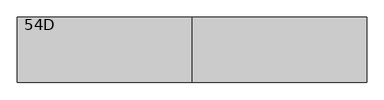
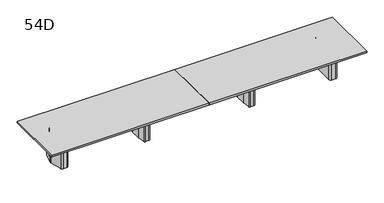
"""IFC4 building model written with IfcOpenShell, lengths in millimetres: furniture geometry, Coalesse_AM_Table_Conference_ETable2_Rectangular_24ft_FourBase : 54D."""

from ifc_helpers import new_model, si_unit, frame, origin, place, context, project, spatial, polyline, circle_curve, outline, extrude, source, transform, mapped, element, save
from ifc_brep_helpers import plane_surface, cylinder_surface, revolved_surface, advanced_brep


def furniture_54d_2627609f(model_context):
    return source(origin(), model_context, "Body", "SolidModel", [
        advanced_brep(
        [(1254.91875, 206.375, 3.175), (1229.51875, 231.775, 3.175), (1208.88125, 231.775, 3.175), (1183.48125, 206.375, 3.175), (1183.48125, -206.375, 3.175), (1208.88125, -231.775, 3.175), (1229.51875, -231.775, 3.175), (1254.91875, -206.375, 3.175), (1158.08125, 206.375, 0.0), (1208.88125, 257.175, 0.0), (1229.51875, 257.175, 0.0), (1280.31875, 206.375, 0.0), (1280.31875, -206.375, 0.0), (1229.51875, -257.175, 0.0), (1208.88125, -257.175, 0.0), (1158.08125, -206.375, 0.0), (1158.08125, -206.375, 3.175), (1158.08125, 206.375, 3.175), (1208.88125, -257.175, 3.175), (1229.51875, -257.175, 3.175), (1280.31875, -206.375, 3.175), (1280.31875, 206.375, 3.175), (1229.51875, 257.175, 3.175), (1208.88125, 257.175, 3.175), (1126.5784026, 106.2976848, 698.5), (1126.33125, 102.7629613, 698.5), (1126.33125, -102.7629613, 698.5), (1126.5784026, -106.2976848, 698.5), (1151.4011625, -282.9347235, 698.5), (1176.5540098, -304.8, 698.5), (1261.8459902, -304.8, 698.5), (1286.9988375, -282.9347235, 698.5), (1311.8215974, -106.2976848, 698.5), (1312.06875, -102.7629613, 698.5), (1312.06875, 102.7629613, 698.5), (1311.8215974, 106.2976848, 698.5), (1286.9988375, 282.9347235, 698.5), (1261.8459902, 304.8, 698.5), (1176.5540098, 304.8, 698.5), (1151.4011625, 282.9347235, 698.5), (1229.51875, 231.775, 698.5), (1254.91875, 206.375, 698.5), (1254.91875, -206.375, 698.5), (1229.51875, -231.775, 698.5), (1208.88125, -231.775, 698.5), (1183.48125, -206.375, 698.5), (1183.48125, 206.375, 698.5), (1208.88125, 231.775, 698.5), (1126.5784026, 106.2976848, 3.175), (1151.4011625, 282.9347235, 3.175), (1176.5540098, 304.8, 3.175), (1261.8459902, 304.8, 3.175), (1286.9988375, 282.9347235, 3.175), (1311.8215974, 106.2976848, 3.175), (1312.06875, 102.7629613, 3.175), (1312.06875, -102.7629613, 3.175), (1311.8215974, -106.2976848, 3.175), (1286.9988375, -282.9347235, 3.175), (1261.8459902, -304.8, 3.175), (1176.5540098, -304.8, 3.175), (1151.4011625, -282.9347235, 3.175), (1126.5784026, -106.2976848, 3.175), (1126.33125, -102.7629613, 3.175), (1126.33125, 102.7629613, 3.175)],
        [
            (0, 1, circle_curve(frame((1229.51875, 206.375, 3.175), z_axis=(0.0, 0.0, 1.0), x_axis=(1.0, 0.0, 0.0)), 25.4)),
            (1, 2),
            (2, 3, circle_curve(frame((1208.88125, 206.375, 3.175), z_axis=(0.0, 0.0, 1.0), x_axis=(1.0, 0.0, 0.0)), 25.4)),
            (3, 4),
            (4, 5, circle_curve(frame((1208.88125, -206.375, 3.175), z_axis=(0.0, 0.0, 1.0), x_axis=(1.0, 0.0, 0.0)), 25.4)),
            (5, 6),
            (6, 7, circle_curve(frame((1229.51875, -206.375, 3.175), z_axis=(0.0, 0.0, 1.0), x_axis=(1.0, 0.0, 0.0)), 25.4)),
            (7, 0),
            (8, 9, circle_curve(frame((1208.88125, 206.375, 0.0), z_axis=(0.0, 0.0, -1.0), x_axis=(1.0, 0.0, 0.0)), 50.8)),
            (9, 10),
            (10, 11, circle_curve(frame((1229.51875, 206.375, 0.0), z_axis=(0.0, 0.0, -1.0), x_axis=(1.0, 0.0, 0.0)), 50.8)),
            (11, 12),
            (12, 13, circle_curve(frame((1229.51875, -206.375, 0.0), z_axis=(0.0, 0.0, -1.0), x_axis=(1.0, 0.0, 0.0)), 50.8)),
            (13, 14),
            (14, 15, circle_curve(frame((1208.88125, -206.375, 0.0), z_axis=(0.0, 0.0, -1.0), x_axis=(1.0, 0.0, 0.0)), 50.8)),
            (15, 8),
            (15, 16),
            (16, 17),
            (17, 8),
            (14, 18),
            (18, 16, circle_curve(frame((1208.88125, -206.375, 3.175), z_axis=(0.0, 0.0, -1.0), x_axis=(1.0, 0.0, 0.0)), 50.8)),
            (13, 19),
            (19, 18),
            (12, 20),
            (20, 19, circle_curve(frame((1229.51875, -206.375, 3.175), z_axis=(0.0, 0.0, -1.0), x_axis=(1.0, 0.0, 0.0)), 50.8)),
            (11, 21),
            (21, 20),
            (10, 22),
            (22, 21, circle_curve(frame((1229.51875, 206.375, 3.175), z_axis=(0.0, 0.0, -1.0), x_axis=(1.0, 0.0, 0.0)), 50.8)),
            (9, 23),
            (23, 22),
            (17, 23, circle_curve(frame((1208.88125, 206.375, 3.175), z_axis=(0.0, 0.0, -1.0), x_axis=(1.0, 0.0, 0.0)), 50.8)),
            (24, 25, circle_curve(frame((1151.73125, 102.7629613, 698.5), z_axis=(0.0, 0.0, 1.0), x_axis=(1.0, 0.0, 0.0)), 25.4)),
            (25, 26),
            (26, 27, circle_curve(frame((1151.73125, -102.7629613, 698.5), z_axis=(0.0, 0.0, 1.0), x_axis=(1.0, 0.0, 0.0)), 25.4)),
            (27, 28),
            (28, 29, circle_curve(frame((1176.5540098, -279.4, 698.5), z_axis=(0.0, 0.0, 1.0), x_axis=(1.0, 0.0, 0.0)), 25.4)),
            (29, 30),
            (30, 31, circle_curve(frame((1261.8459902, -279.4, 698.5), z_axis=(0.0, 0.0, 1.0), x_axis=(1.0, 0.0, 0.0)), 25.4)),
            (31, 32),
            (32, 33, circle_curve(frame((1286.66875, -102.7629613, 698.5), z_axis=(0.0, 0.0, 1.0), x_axis=(1.0, 0.0, 0.0)), 25.4)),
            (33, 34),
            (34, 35, circle_curve(frame((1286.66875, 102.7629613, 698.5), z_axis=(0.0, 0.0, 1.0), x_axis=(1.0, 0.0, 0.0)), 25.4)),
            (35, 36),
            (36, 37, circle_curve(frame((1261.8459902, 279.4, 698.5), z_axis=(0.0, 0.0, 1.0), x_axis=(1.0, 0.0, 0.0)), 25.4)),
            (37, 38),
            (38, 39, circle_curve(frame((1176.5540098, 279.4, 698.5), z_axis=(0.0, 0.0, 1.0), x_axis=(1.0, 0.0, 0.0)), 25.4)),
            (39, 24),
            (40, 41, circle_curve(frame((1229.51875, 206.375, 698.5), z_axis=(0.0, 0.0, -1.0), x_axis=(1.0, 0.0, 0.0)), 25.4)),
            (41, 42),
            (42, 43, circle_curve(frame((1229.51875, -206.375, 698.5), z_axis=(0.0, 0.0, -1.0), x_axis=(1.0, 0.0, 0.0)), 25.4)),
            (43, 44),
            (44, 45, circle_curve(frame((1208.88125, -206.375, 698.5), z_axis=(0.0, 0.0, -1.0), x_axis=(1.0, 0.0, 0.0)), 25.4)),
            (45, 46),
            (46, 47, circle_curve(frame((1208.88125, 206.375, 698.5), z_axis=(0.0, 0.0, -1.0), x_axis=(1.0, 0.0, 0.0)), 25.4)),
            (47, 40),
            (48, 49),
            (49, 50, circle_curve(frame((1176.5540098, 279.4, 3.175), z_axis=(0.0, 0.0, -1.0), x_axis=(1.0, 0.0, 0.0)), 25.4)),
            (50, 51),
            (51, 52, circle_curve(frame((1261.8459902, 279.4, 3.175), z_axis=(0.0, 0.0, -1.0), x_axis=(1.0, 0.0, 0.0)), 25.4)),
            (52, 53),
            (53, 54, circle_curve(frame((1286.66875, 102.7629613, 3.175), z_axis=(0.0, 0.0, -1.0), x_axis=(1.0, 0.0, 0.0)), 25.4)),
            (54, 55),
            (55, 56, circle_curve(frame((1286.66875, -102.7629613, 3.175), z_axis=(0.0, 0.0, -1.0), x_axis=(1.0, 0.0, 0.0)), 25.4)),
            (56, 57),
            (57, 58, circle_curve(frame((1261.8459902, -279.4, 3.175), z_axis=(0.0, 0.0, -1.0), x_axis=(1.0, 0.0, 0.0)), 25.4)),
            (58, 59),
            (59, 60, circle_curve(frame((1176.5540098, -279.4, 3.175), z_axis=(0.0, 0.0, -1.0), x_axis=(1.0, 0.0, 0.0)), 25.4)),
            (60, 61),
            (61, 62, circle_curve(frame((1151.73125, -102.7629613, 3.175), z_axis=(0.0, 0.0, -1.0), x_axis=(1.0, 0.0, 0.0)), 25.4)),
            (62, 63),
            (63, 48, circle_curve(frame((1151.73125, 102.7629613, 3.175), z_axis=(0.0, 0.0, -1.0), x_axis=(1.0, 0.0, 0.0)), 25.4)),
            (24, 48),
            (63, 25),
            (62, 26),
            (61, 27),
            (60, 28),
            (59, 29),
            (58, 30),
            (57, 31),
            (56, 32),
            (55, 33),
            (54, 34),
            (53, 35),
            (52, 36),
            (51, 37),
            (50, 38),
            (49, 39),
            (40, 1),
            (0, 41),
            (7, 42),
            (6, 43),
            (5, 44),
            (4, 45),
            (3, 46),
            (2, 47),
        ],
        [
            plane_surface(frame((1158.08125, -206.375, 3.175), z_axis=(0.0, 0.0, 1.0), x_axis=(0.0, -1.0, 0.0))),
            plane_surface(frame((1158.08125, -206.375, 0.0), z_axis=(0.0, 0.0, -1.0), x_axis=(0.0, 1.0, 0.0))),
            plane_surface(frame((1158.08125, 206.375, 3.175), z_axis=(-1.0, 0.0, 0.0), x_axis=(0.0, 0.0, -1.0))),
            cylinder_surface(frame((1208.88125, -206.375, 0.0), z_axis=(0.0, 0.0, 1.0), x_axis=(1.0, 0.0, 0.0)), 50.8),
            plane_surface(frame((1208.88125, -257.175, 3.175), z_axis=(0.0, -1.0, 0.0), x_axis=(0.0, 0.0, -1.0))),
            cylinder_surface(frame((1229.51875, -206.375, 0.0), z_axis=(0.0, 0.0, 1.0), x_axis=(1.0, 0.0, 0.0)), 50.8),
            plane_surface(frame((1280.31875, -206.375, 3.175), z_axis=(1.0, 0.0, 0.0), x_axis=(0.0, 0.0, -1.0))),
            cylinder_surface(frame((1229.51875, 206.375, 0.0), z_axis=(0.0, 0.0, 1.0), x_axis=(1.0, 0.0, 0.0)), 50.8),
            plane_surface(frame((1229.51875, 257.175, 3.175), z_axis=(0.0, 1.0, 0.0), x_axis=(0.0, 0.0, -1.0))),
            cylinder_surface(frame((1208.88125, 206.375, 0.0), z_axis=(0.0, 0.0, 1.0), x_axis=(1.0, 0.0, 0.0)), 50.8),
            plane_surface(frame((1177.13125, 102.7629613, 698.5), z_axis=(0.0, 0.0, 1.0), x_axis=(0.0, 1.0, 0.0))),
            plane_surface(frame((1177.13125, 102.7629613, 3.175), z_axis=(0.0, 0.0, -1.0), x_axis=(0.0, -1.0, 0.0))),
            cylinder_surface(frame((1151.73125, 102.7629613, 3.175), z_axis=(0.0, 0.0, 1.0), x_axis=(1.0, 0.0, 0.0)), 25.4),
            plane_surface(frame((1126.33125, 102.7629613, 698.5), z_axis=(-1.0, 0.0, 0.0), x_axis=(0.0, 0.0, -1.0))),
            cylinder_surface(frame((1151.73125, -102.7629613, 3.175), z_axis=(0.0, 0.0, 1.0), x_axis=(1.0, 0.0, 0.0)), 25.4),
            plane_surface(frame((1126.5784026, -106.2976848, 698.5), z_axis=(-0.9902695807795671, -0.13916234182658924, 0.0), x_axis=(0.0, 0.0, -1.0))),
            cylinder_surface(frame((1176.5540098, -279.4, 3.175), z_axis=(0.0, 0.0, 1.0), x_axis=(1.0, 0.0, 0.0)), 25.4),
            plane_surface(frame((1176.5540098, -304.8, 698.5), z_axis=(0.0, -1.0, 0.0), x_axis=(0.0, 0.0, -1.0))),
            cylinder_surface(frame((1261.8459902, -279.4, 3.175), z_axis=(0.0, 0.0, 1.0), x_axis=(1.0, 0.0, 0.0)), 25.4),
            plane_surface(frame((1286.9988375, -282.9347235, 698.5), z_axis=(0.9902695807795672, -0.13916234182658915, 0.0), x_axis=(0.0, 0.0, -1.0))),
            cylinder_surface(frame((1286.66875, -102.7629613, 3.175), z_axis=(0.0, 0.0, 1.0), x_axis=(1.0, 0.0, 0.0)), 25.4),
            plane_surface(frame((1312.06875, -102.7629613, 698.5), z_axis=(1.0, 0.0, 0.0), x_axis=(0.0, 0.0, -1.0))),
            cylinder_surface(frame((1286.66875, 102.7629613, 3.175), z_axis=(0.0, 0.0, 1.0), x_axis=(1.0, 0.0, 0.0)), 25.4),
            plane_surface(frame((1311.8215974, 106.2976848, 698.5), z_axis=(0.9902695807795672, 0.1391623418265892, 0.0), x_axis=(0.0, 0.0, -1.0))),
            cylinder_surface(frame((1261.8459902, 279.4, 3.175), z_axis=(0.0, 0.0, 1.0), x_axis=(1.0, 0.0, 0.0)), 25.4),
            plane_surface(frame((1261.8459902, 304.8, 698.5), z_axis=(0.0, 1.0, 0.0), x_axis=(0.0, 0.0, -1.0))),
            cylinder_surface(frame((1176.5540098, 279.4, 3.175), z_axis=(0.0, 0.0, 1.0), x_axis=(1.0, 0.0, 0.0)), 25.4),
            plane_surface(frame((1151.4011625, 282.9347235, 698.5), z_axis=(-0.9902695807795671, 0.13916234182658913, 0.0), x_axis=(0.0, 0.0, -1.0))),
            revolved_surface(polyline([(1254.91875, 206.375, 3.175), (1254.91875, 206.375, 698.5)]), (1229.51875, 206.375, 0.0), (0.0, 0.0, -1.0)),
            plane_surface(frame((1254.91875, 206.375, 698.5), z_axis=(-1.0, 0.0, 0.0), x_axis=(0.0, 0.0, -1.0))),
            revolved_surface(polyline([(1254.91875, -206.375, 3.175), (1254.91875, -206.375, 698.5)]), (1229.51875, -206.375, 0.0), (0.0, 0.0, -1.0)),
            plane_surface(frame((1229.51875, -231.775, 698.5), z_axis=(0.0, 1.0, 0.0), x_axis=(0.0, 0.0, -1.0))),
            revolved_surface(polyline([(1234.28125, -206.375, 3.175), (1234.28125, -206.375, 698.5)]), (1208.88125, -206.375, 0.0), (0.0, 0.0, -1.0)),
            plane_surface(frame((1183.48125, -206.375, 698.5), z_axis=(1.0, 0.0, 0.0), x_axis=(0.0, 0.0, -1.0))),
            revolved_surface(polyline([(1234.28125, 206.375, 3.175), (1234.28125, 206.375, 698.5)]), (1208.88125, 206.375, 0.0), (0.0, 0.0, -1.0)),
            plane_surface(frame((1208.88125, 231.775, 698.5), z_axis=(0.0, -1.0, 0.0), x_axis=(0.0, 0.0, -1.0))),
        ],
        [
            (0, [[1, 2, 3, 4, 5, 6, 7, 8]]),
            (1, [[9, 10, 11, 12, 13, 14, 15, 16]]),
            (2, [[-16, 17, 18, 19]]),
            (3, [[-15, 20, 21, -17]]),
            (4, [[-14, 22, 23, -20]]),
            (5, [[-13, 24, 25, -22]]),
            (6, [[-12, 26, 27, -24]]),
            (7, [[-11, 28, 29, -26]]),
            (8, [[-10, 30, 31, -28]]),
            (9, [[-9, -19, 32, -30]]),
            (10, [[33, 34, 35, 36, 37, 38, 39, 40, 41, 42, 43, 44, 45, 46, 47, 48], [49, 50, 51, 52, 53, 54, 55, 56]]),
            (11, [[57, 58, 59, 60, 61, 62, 63, 64, 65, 66, 67, 68, 69, 70, 71, 72], [-18, -21, -23, -25, -27, -29, -31, -32]]),
            (12, [[-33, 73, -72, 74]]),
            (13, [[-34, -74, -71, 75]]),
            (14, [[-35, -75, -70, 76]]),
            (15, [[-36, -76, -69, 77]]),
            (16, [[-37, -77, -68, 78]]),
            (17, [[-38, -78, -67, 79]]),
            (18, [[-39, -79, -66, 80]]),
            (19, [[-40, -80, -65, 81]]),
            (20, [[-41, -81, -64, 82]]),
            (21, [[-42, -82, -63, 83]]),
            (22, [[-43, -83, -62, 84]]),
            (23, [[-44, -84, -61, 85]]),
            (24, [[-45, -85, -60, 86]]),
            (25, [[-46, -86, -59, 87]]),
            (26, [[-47, -87, -58, 88]]),
            (27, [[-48, -88, -57, -73]]),
            (28, [[-49, 89, -1, 90]]),
            (29, [[-50, -90, -8, 91]]),
            (30, [[-51, -91, -7, 92]]),
            (31, [[-52, -92, -6, 93]]),
            (32, [[-53, -93, -5, 94]]),
            (33, [[-54, -94, -4, 95]]),
            (34, [[-55, -95, -3, 96]]),
            (35, [[-56, -96, -2, -89]]),
        ],
    ),
        advanced_brep(
        [(-1183.48125, 206.375, 3.175), (-1208.88125, 231.775, 3.175), (-1229.51875, 231.775, 3.175), (-1254.91875, 206.375, 3.175), (-1254.91875, -206.375, 3.175), (-1229.51875, -231.775, 3.175), (-1208.88125, -231.775, 3.175), (-1183.48125, -206.375, 3.175), (-1280.31875, 206.375, 0.0), (-1229.51875, 257.175, 0.0), (-1208.88125, 257.175, 0.0), (-1158.08125, 206.375, 0.0), (-1158.08125, -206.375, 0.0), (-1208.88125, -257.175, 0.0), (-1229.51875, -257.175, 0.0), (-1280.31875, -206.375, 0.0), (-1280.31875, -206.375, 3.175), (-1280.31875, 206.375, 3.175), (-1229.51875, -257.175, 3.175), (-1208.88125, -257.175, 3.175), (-1158.08125, -206.375, 3.175), (-1158.08125, 206.375, 3.175), (-1208.88125, 257.175, 3.175), (-1229.51875, 257.175, 3.175), (-1311.8215974, 106.2976848, 698.5), (-1312.06875, 102.7629613, 698.5), (-1312.06875, -102.7629613, 698.5), (-1311.8215974, -106.2976848, 698.5), (-1286.9988375, -282.9347235, 698.5), (-1261.8459902, -304.8, 698.5), (-1176.5540098, -304.8, 698.5), (-1151.4011625, -282.9347235, 698.5), (-1126.5784026, -106.2976848, 698.5), (-1126.33125, -102.7629613, 698.5), (-1126.33125, 102.7629613, 698.5), (-1126.5784026, 106.2976848, 698.5), (-1151.4011625, 282.9347235, 698.5), (-1176.5540098, 304.8, 698.5), (-1261.8459902, 304.8, 698.5), (-1286.9988375, 282.9347235, 698.5), (-1208.88125, 231.775, 698.5), (-1183.48125, 206.375, 698.5), (-1183.48125, -206.375, 698.5), (-1208.88125, -231.775, 698.5), (-1229.51875, -231.775, 698.5), (-1254.91875, -206.375, 698.5), (-1254.91875, 206.375, 698.5), (-1229.51875, 231.775, 698.5), (-1311.8215974, 106.2976848, 3.175), (-1286.9988375, 282.9347235, 3.175), (-1261.8459902, 304.8, 3.175), (-1176.5540098, 304.8, 3.175), (-1151.4011625, 282.9347235, 3.175), (-1126.5784026, 106.2976848, 3.175), (-1126.33125, 102.7629613, 3.175), (-1126.33125, -102.7629613, 3.175), (-1126.5784026, -106.2976848, 3.175), (-1151.4011625, -282.9347235, 3.175), (-1176.5540098, -304.8, 3.175), (-1261.8459902, -304.8, 3.175), (-1286.9988375, -282.9347235, 3.175), (-1311.8215974, -106.2976848, 3.175), (-1312.06875, -102.7629613, 3.175), (-1312.06875, 102.7629613, 3.175)],
        [
            (0, 1, circle_curve(frame((-1208.88125, 206.375, 3.175), z_axis=(0.0, 0.0, 1.0), x_axis=(1.0, 0.0, 0.0)), 25.4)),
            (1, 2),
            (2, 3, circle_curve(frame((-1229.51875, 206.375, 3.175), z_axis=(0.0, 0.0, 1.0), x_axis=(1.0, 0.0, 0.0)), 25.4)),
            (3, 4),
            (4, 5, circle_curve(frame((-1229.51875, -206.375, 3.175), z_axis=(0.0, 0.0, 1.0), x_axis=(1.0, 0.0, 0.0)), 25.4)),
            (5, 6),
            (6, 7, circle_curve(frame((-1208.88125, -206.375, 3.175), z_axis=(0.0, 0.0, 1.0), x_axis=(1.0, 0.0, 0.0)), 25.4)),
            (7, 0),
            (8, 9, circle_curve(frame((-1229.51875, 206.375, 0.0), z_axis=(0.0, 0.0, -1.0), x_axis=(1.0, 0.0, 0.0)), 50.8)),
            (9, 10),
            (10, 11, circle_curve(frame((-1208.88125, 206.375, 0.0), z_axis=(0.0, 0.0, -1.0), x_axis=(1.0, 0.0, 0.0)), 50.8)),
            (11, 12),
            (12, 13, circle_curve(frame((-1208.88125, -206.375, 0.0), z_axis=(0.0, 0.0, -1.0), x_axis=(1.0, 0.0, 0.0)), 50.8)),
            (13, 14),
            (14, 15, circle_curve(frame((-1229.51875, -206.375, 0.0), z_axis=(0.0, 0.0, -1.0), x_axis=(1.0, 0.0, 0.0)), 50.8)),
            (15, 8),
            (15, 16),
            (16, 17),
            (17, 8),
            (14, 18),
            (18, 16, circle_curve(frame((-1229.51875, -206.375, 3.175), z_axis=(0.0, 0.0, -1.0), x_axis=(1.0, 0.0, 0.0)), 50.8)),
            (13, 19),
            (19, 18),
            (12, 20),
            (20, 19, circle_curve(frame((-1208.88125, -206.375, 3.175), z_axis=(0.0, 0.0, -1.0), x_axis=(1.0, 0.0, 0.0)), 50.8)),
            (11, 21),
            (21, 20),
            (10, 22),
            (22, 21, circle_curve(frame((-1208.88125, 206.375, 3.175), z_axis=(0.0, 0.0, -1.0), x_axis=(1.0, 0.0, 0.0)), 50.8)),
            (9, 23),
            (23, 22),
            (17, 23, circle_curve(frame((-1229.51875, 206.375, 3.175), z_axis=(0.0, 0.0, -1.0), x_axis=(1.0, 0.0, 0.0)), 50.8)),
            (24, 25, circle_curve(frame((-1286.66875, 102.7629613, 698.5), z_axis=(0.0, 0.0, 1.0), x_axis=(1.0, 0.0, 0.0)), 25.4)),
            (25, 26),
            (26, 27, circle_curve(frame((-1286.66875, -102.7629613, 698.5), z_axis=(0.0, 0.0, 1.0), x_axis=(1.0, 0.0, 0.0)), 25.4)),
            (27, 28),
            (28, 29, circle_curve(frame((-1261.8459902, -279.4, 698.5), z_axis=(0.0, 0.0, 1.0), x_axis=(1.0, 0.0, 0.0)), 25.4)),
            (29, 30),
            (30, 31, circle_curve(frame((-1176.5540098, -279.4, 698.5), z_axis=(0.0, 0.0, 1.0), x_axis=(1.0, 0.0, 0.0)), 25.4)),
            (31, 32),
            (32, 33, circle_curve(frame((-1151.73125, -102.7629613, 698.5), z_axis=(0.0, 0.0, 1.0), x_axis=(1.0, 0.0, 0.0)), 25.4)),
            (33, 34),
            (34, 35, circle_curve(frame((-1151.73125, 102.7629613, 698.5), z_axis=(0.0, 0.0, 1.0), x_axis=(1.0, 0.0, 0.0)), 25.4)),
            (35, 36),
            (36, 37, circle_curve(frame((-1176.5540098, 279.4, 698.5), z_axis=(0.0, 0.0, 1.0), x_axis=(1.0, 0.0, 0.0)), 25.4)),
            (37, 38),
            (38, 39, circle_curve(frame((-1261.8459902, 279.4, 698.5), z_axis=(0.0, 0.0, 1.0), x_axis=(1.0, 0.0, 0.0)), 25.4)),
            (39, 24),
            (40, 41, circle_curve(frame((-1208.88125, 206.375, 698.5), z_axis=(0.0, 0.0, -1.0), x_axis=(1.0, 0.0, 0.0)), 25.4)),
            (41, 42),
            (42, 43, circle_curve(frame((-1208.88125, -206.375, 698.5), z_axis=(0.0, 0.0, -1.0), x_axis=(1.0, 0.0, 0.0)), 25.4)),
            (43, 44),
            (44, 45, circle_curve(frame((-1229.51875, -206.375, 698.5), z_axis=(0.0, 0.0, -1.0), x_axis=(1.0, 0.0, 0.0)), 25.4)),
            (45, 46),
            (46, 47, circle_curve(frame((-1229.51875, 206.375, 698.5), z_axis=(0.0, 0.0, -1.0), x_axis=(1.0, 0.0, 0.0)), 25.4)),
            (47, 40),
            (48, 49),
            (49, 50, circle_curve(frame((-1261.8459902, 279.4, 3.175), z_axis=(0.0, 0.0, -1.0), x_axis=(1.0, 0.0, 0.0)), 25.4)),
            (50, 51),
            (51, 52, circle_curve(frame((-1176.5540098, 279.4, 3.175), z_axis=(0.0, 0.0, -1.0), x_axis=(1.0, 0.0, 0.0)), 25.4)),
            (52, 53),
            (53, 54, circle_curve(frame((-1151.73125, 102.7629613, 3.175), z_axis=(0.0, 0.0, -1.0), x_axis=(1.0, 0.0, 0.0)), 25.4)),
            (54, 55),
            (55, 56, circle_curve(frame((-1151.73125, -102.7629613, 3.175), z_axis=(0.0, 0.0, -1.0), x_axis=(1.0, 0.0, 0.0)), 25.4)),
            (56, 57),
            (57, 58, circle_curve(frame((-1176.5540098, -279.4, 3.175), z_axis=(0.0, 0.0, -1.0), x_axis=(1.0, 0.0, 0.0)), 25.4)),
            (58, 59),
            (59, 60, circle_curve(frame((-1261.8459902, -279.4, 3.175), z_axis=(0.0, 0.0, -1.0), x_axis=(1.0, 0.0, 0.0)), 25.4)),
            (60, 61),
            (61, 62, circle_curve(frame((-1286.66875, -102.7629613, 3.175), z_axis=(0.0, 0.0, -1.0), x_axis=(1.0, 0.0, 0.0)), 25.4)),
            (62, 63),
            (63, 48, circle_curve(frame((-1286.66875, 102.7629613, 3.175), z_axis=(0.0, 0.0, -1.0), x_axis=(1.0, 0.0, 0.0)), 25.4)),
            (24, 48),
            (63, 25),
            (62, 26),
            (61, 27),
            (60, 28),
            (59, 29),
            (58, 30),
            (57, 31),
            (56, 32),
            (55, 33),
            (54, 34),
            (53, 35),
            (52, 36),
            (51, 37),
            (50, 38),
            (49, 39),
            (40, 1),
            (0, 41),
            (7, 42),
            (6, 43),
            (5, 44),
            (4, 45),
            (3, 46),
            (2, 47),
        ],
        [
            plane_surface(frame((-1280.31875, -206.375, 3.175), z_axis=(0.0, 0.0, 1.0), x_axis=(0.0, -1.0, 0.0))),
            plane_surface(frame((-1280.31875, -206.375, 0.0), z_axis=(0.0, 0.0, -1.0), x_axis=(0.0, 1.0, 0.0))),
            plane_surface(frame((-1280.31875, 206.375, 3.175), z_axis=(-1.0, 0.0, 0.0), x_axis=(0.0, 0.0, -1.0))),
            cylinder_surface(frame((-1229.51875, -206.375, 0.0), z_axis=(0.0, 0.0, 1.0), x_axis=(1.0, 0.0, 0.0)), 50.8),
            plane_surface(frame((-1229.51875, -257.175, 3.175), z_axis=(0.0, -1.0, 0.0), x_axis=(0.0, 0.0, -1.0))),
            cylinder_surface(frame((-1208.88125, -206.375, 0.0), z_axis=(0.0, 0.0, 1.0), x_axis=(1.0, 0.0, 0.0)), 50.8),
            plane_surface(frame((-1158.08125, -206.375, 3.175), z_axis=(1.0, 0.0, 0.0), x_axis=(0.0, 0.0, -1.0))),
            cylinder_surface(frame((-1208.88125, 206.375, 0.0), z_axis=(0.0, 0.0, 1.0), x_axis=(1.0, 0.0, 0.0)), 50.8),
            plane_surface(frame((-1208.88125, 257.175, 3.175), z_axis=(0.0, 1.0, 0.0), x_axis=(0.0, 0.0, -1.0))),
            cylinder_surface(frame((-1229.51875, 206.375, 0.0), z_axis=(0.0, 0.0, 1.0), x_axis=(1.0, 0.0, 0.0)), 50.8),
            plane_surface(frame((-1261.26875, 102.7629613, 698.5), z_axis=(0.0, 0.0, 1.0), x_axis=(0.0, 1.0, 0.0))),
            plane_surface(frame((-1261.26875, 102.7629613, 3.175), z_axis=(0.0, 0.0, -1.0), x_axis=(0.0, -1.0, 0.0))),
            cylinder_surface(frame((-1286.66875, 102.7629613, 3.175), z_axis=(0.0, 0.0, 1.0), x_axis=(1.0, 0.0, 0.0)), 25.4),
            plane_surface(frame((-1312.06875, 102.7629613, 698.5), z_axis=(-1.0, 0.0, 0.0), x_axis=(0.0, 0.0, -1.0))),
            cylinder_surface(frame((-1286.66875, -102.7629613, 3.175), z_axis=(0.0, 0.0, 1.0), x_axis=(1.0, 0.0, 0.0)), 25.4),
            plane_surface(frame((-1311.8215974, -106.2976848, 698.5), z_axis=(-0.9902695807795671, -0.13916234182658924, 0.0), x_axis=(0.0, 0.0, -1.0))),
            cylinder_surface(frame((-1261.8459902, -279.4, 3.175), z_axis=(0.0, 0.0, 1.0), x_axis=(1.0, 0.0, 0.0)), 25.4),
            plane_surface(frame((-1261.8459902, -304.8, 698.5), z_axis=(0.0, -1.0, 0.0), x_axis=(0.0, 0.0, -1.0))),
            cylinder_surface(frame((-1176.5540098, -279.4, 3.175), z_axis=(0.0, 0.0, 1.0), x_axis=(1.0, 0.0, 0.0)), 25.4),
            plane_surface(frame((-1151.4011625, -282.9347235, 698.5), z_axis=(0.9902695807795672, -0.13916234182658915, 0.0), x_axis=(0.0, 0.0, -1.0))),
            cylinder_surface(frame((-1151.73125, -102.7629613, 3.175), z_axis=(0.0, 0.0, 1.0), x_axis=(1.0, 0.0, 0.0)), 25.4),
            plane_surface(frame((-1126.33125, -102.7629613, 698.5), z_axis=(1.0, 0.0, 0.0), x_axis=(0.0, 0.0, -1.0))),
            cylinder_surface(frame((-1151.73125, 102.7629613, 3.175), z_axis=(0.0, 0.0, 1.0), x_axis=(1.0, 0.0, 0.0)), 25.4),
            plane_surface(frame((-1126.5784026, 106.2976848, 698.5), z_axis=(0.9902695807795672, 0.1391623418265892, 0.0), x_axis=(0.0, 0.0, -1.0))),
            cylinder_surface(frame((-1176.5540098, 279.4, 3.175), z_axis=(0.0, 0.0, 1.0), x_axis=(1.0, 0.0, 0.0)), 25.4),
            plane_surface(frame((-1176.5540098, 304.8, 698.5), z_axis=(0.0, 1.0, 0.0), x_axis=(0.0, 0.0, -1.0))),
            cylinder_surface(frame((-1261.8459902, 279.4, 3.175), z_axis=(0.0, 0.0, 1.0), x_axis=(1.0, 0.0, 0.0)), 25.4),
            plane_surface(frame((-1286.9988375, 282.9347235, 698.5), z_axis=(-0.9902695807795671, 0.13916234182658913, 0.0), x_axis=(0.0, 0.0, -1.0))),
            revolved_surface(polyline([(-1183.4812499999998, 206.375, 3.175), (-1183.4812499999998, 206.375, 698.5)]), (-1208.88125, 206.375, 0.0), (0.0, 0.0, -1.0)),
            plane_surface(frame((-1183.48125, 206.375, 698.5), z_axis=(-1.0, 0.0, 0.0), x_axis=(0.0, 0.0, -1.0))),
            revolved_surface(polyline([(-1183.4812499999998, -206.375, 3.175), (-1183.4812499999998, -206.375, 698.5)]), (-1208.88125, -206.375, 0.0), (0.0, 0.0, -1.0)),
            plane_surface(frame((-1208.88125, -231.775, 698.5), z_axis=(0.0, 1.0, 0.0), x_axis=(0.0, 0.0, -1.0))),
            revolved_surface(polyline([(-1204.1187499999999, -206.375, 3.175), (-1204.1187499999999, -206.375, 698.5)]), (-1229.51875, -206.375, 0.0), (0.0, 0.0, -1.0)),
            plane_surface(frame((-1254.91875, -206.375, 698.5), z_axis=(1.0, 0.0, 0.0), x_axis=(0.0, 0.0, -1.0))),
            revolved_surface(polyline([(-1204.1187499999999, 206.375, 3.175), (-1204.1187499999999, 206.375, 698.5)]), (-1229.51875, 206.375, 0.0), (0.0, 0.0, -1.0)),
            plane_surface(frame((-1229.51875, 231.775, 698.5), z_axis=(0.0, -1.0, 0.0), x_axis=(0.0, 0.0, -1.0))),
        ],
        [
            (0, [[1, 2, 3, 4, 5, 6, 7, 8]]),
            (1, [[9, 10, 11, 12, 13, 14, 15, 16]]),
            (2, [[-16, 17, 18, 19]]),
            (3, [[-15, 20, 21, -17]]),
            (4, [[-14, 22, 23, -20]]),
            (5, [[-13, 24, 25, -22]]),
            (6, [[-12, 26, 27, -24]]),
            (7, [[-11, 28, 29, -26]]),
            (8, [[-10, 30, 31, -28]]),
            (9, [[-9, -19, 32, -30]]),
            (10, [[33, 34, 35, 36, 37, 38, 39, 40, 41, 42, 43, 44, 45, 46, 47, 48], [49, 50, 51, 52, 53, 54, 55, 56]]),
            (11, [[57, 58, 59, 60, 61, 62, 63, 64, 65, 66, 67, 68, 69, 70, 71, 72], [-18, -21, -23, -25, -27, -29, -31, -32]]),
            (12, [[-33, 73, -72, 74]]),
            (13, [[-34, -74, -71, 75]]),
            (14, [[-35, -75, -70, 76]]),
            (15, [[-36, -76, -69, 77]]),
            (16, [[-37, -77, -68, 78]]),
            (17, [[-38, -78, -67, 79]]),
            (18, [[-39, -79, -66, 80]]),
            (19, [[-40, -80, -65, 81]]),
            (20, [[-41, -81, -64, 82]]),
            (21, [[-42, -82, -63, 83]]),
            (22, [[-43, -83, -62, 84]]),
            (23, [[-44, -84, -61, 85]]),
            (24, [[-45, -85, -60, 86]]),
            (25, [[-46, -86, -59, 87]]),
            (26, [[-47, -87, -58, 88]]),
            (27, [[-48, -88, -57, -73]]),
            (28, [[-49, 89, -1, 90]]),
            (29, [[-50, -90, -8, 91]]),
            (30, [[-51, -91, -7, 92]]),
            (31, [[-52, -92, -6, 93]]),
            (32, [[-53, -93, -5, 94]]),
            (33, [[-54, -94, -4, 95]]),
            (34, [[-55, -95, -3, 96]]),
            (35, [[-56, -96, -2, -89]]),
        ],
    ),
        advanced_brep(
        [(3199.024548, 274.2093613, 698.5), (3159.1579246, 304.8, 698.5), (3070.225, 304.8, 698.5), (3028.95, 263.525, 698.5), (3028.95, -263.525, 698.5), (3070.225, -304.8, 698.5), (3159.1579246, -304.8, 698.5), (3199.024548, -274.2093613, 698.5), (3269.6503901, -10.6333708, 698.5), (3269.6503901, 10.6333708, 698.5), (3067.05, -206.375, 698.5), (3067.05, 206.375, 698.5), (3092.45, 231.775, 698.5), (3151.4608422, 231.775, 698.5), (3175.995338, 212.9490792, 698.5), (3214.6875, 68.54974, 698.5), (3214.6875, -68.54974, 698.5), (3175.995338, -212.9490792, 698.5), (3151.4608422, -231.775, 698.5), (3092.45, -231.775, 698.5), (3199.024548, 274.2093613, 3.175), (3269.6503901, 10.6333708, 3.175), (3269.6503901, -10.6333708, 3.175), (3199.024548, -274.2093613, 3.175), (3159.1579246, -304.8, 3.175), (3070.225, -304.8, 3.175), (3028.95, -263.525, 3.175), (3028.95, 263.525, 3.175), (3070.225, 304.8, 3.175), (3159.1579246, 304.8, 3.175), (3188.2625859, 216.2361187, 3.175), (3151.4608422, 244.475, 3.175), (3092.45, 244.475, 3.175), (3054.35, 206.375, 3.175), (3054.35, -206.375, 3.175), (3092.45, -244.475, 3.175), (3151.4608422, -244.475, 3.175), (3188.2625859, -216.2361187, 3.175), (3227.3875, -70.2217466, 3.175), (3227.3875, 70.2217466, 3.175), (3092.45, -231.775, 3.175), (3067.05, -206.375, 3.175), (3151.4608422, -231.775, 3.175), (3175.995338, -212.9490792, 3.175), (3214.6875, -68.54974, 3.175), (3214.6875, 68.54974, 3.175), (3175.995338, 212.9490792, 3.175), (3151.4608422, 231.775, 3.175), (3092.45, 231.775, 3.175), (3067.05, 206.375, 3.175), (3188.2625859, 216.2361187, 0.0), (3227.3875, 70.2217466, 0.0), (3227.3875, -70.2217466, 0.0), (3188.2625859, -216.2361187, 0.0), (3151.4608422, -244.475, 0.0), (3092.45, -244.475, 0.0), (3054.35, -206.375, 0.0), (3054.35, 206.375, 0.0), (3092.45, 244.475, 0.0), (3151.4608422, 244.475, 0.0)],
        [
            (0, 1, circle_curve(frame((3159.1579246, 263.5270004, 698.5), z_axis=(0.0, 0.0, 1.0), x_axis=(-1.0, 0.0, 0.0)), 41.2729996)),
            (1, 2),
            (2, 3, circle_curve(frame((3070.225, 263.525, 698.5), z_axis=(0.0, 0.0, 1.0), x_axis=(-1.0, 0.0, 0.0)), 41.275)),
            (3, 4),
            (4, 5, circle_curve(frame((3070.225, -263.525, 698.5), z_axis=(0.0, 0.0, 1.0), x_axis=(-1.0, 0.0, 0.0)), 41.275)),
            (5, 6),
            (6, 7, circle_curve(frame((3159.1579246, -263.5270004, 698.5), z_axis=(0.0, 0.0, 1.0), x_axis=(-1.0, 0.0, 0.0)), 41.2729996)),
            (7, 8),
            (8, 9, circle_curve(frame((3229.9665979, 0.0, 698.5), z_axis=(0.0, 0.0, 1.0), x_axis=(-1.0, 0.0, 0.0)), 41.0837187)),
            (9, 0),
            (10, 11),
            (11, 12, circle_curve(frame((3092.45, 206.375, 698.5), z_axis=(0.0, 0.0, -1.0), x_axis=(-1.0, 0.0, 0.0)), 25.4)),
            (12, 13),
            (13, 14, circle_curve(frame((3151.4608422, 206.375, 698.5), z_axis=(0.0, 0.0, -1.0), x_axis=(-1.0, 0.0, 0.0)), 25.4)),
            (14, 15),
            (15, 16),
            (16, 17),
            (17, 18, circle_curve(frame((3151.4608422, -206.375, 698.5), z_axis=(0.0, 0.0, -1.0), x_axis=(-1.0, 0.0, 0.0)), 25.4)),
            (18, 19),
            (19, 10, circle_curve(frame((3092.45, -206.375, 698.5), z_axis=(0.0, 0.0, -1.0), x_axis=(-1.0, 0.0, 0.0)), 25.4)),
            (20, 21),
            (21, 22, circle_curve(frame((3229.9665979, 0.0, 3.175), z_axis=(0.0, 0.0, -1.0), x_axis=(-1.0, 0.0, 0.0)), 41.0837187)),
            (22, 23),
            (23, 24, circle_curve(frame((3159.1579246, -263.5270004, 3.175), z_axis=(0.0, 0.0, -1.0), x_axis=(-1.0, 0.0, 0.0)), 41.2729996)),
            (24, 25),
            (25, 26, circle_curve(frame((3070.225, -263.525, 3.175), z_axis=(0.0, 0.0, -1.0), x_axis=(-1.0, 0.0, 0.0)), 41.275)),
            (26, 27),
            (27, 28, circle_curve(frame((3070.225, 263.525, 3.175), z_axis=(0.0, 0.0, -1.0), x_axis=(-1.0, 0.0, 0.0)), 41.275)),
            (28, 29),
            (29, 20, circle_curve(frame((3159.1579246, 263.5270004, 3.175), z_axis=(0.0, 0.0, -1.0), x_axis=(-1.0, 0.0, 0.0)), 41.2729996)),
            (30, 31, circle_curve(frame((3151.4608422, 206.375, 3.175), z_axis=(0.0, 0.0, 1.0), x_axis=(-1.0, 0.0, 0.0)), 38.1)),
            (31, 32),
            (32, 33, circle_curve(frame((3092.45, 206.375, 3.175), z_axis=(0.0, 0.0, 1.0), x_axis=(-1.0, 0.0, 0.0)), 38.1)),
            (33, 34),
            (34, 35, circle_curve(frame((3092.45, -206.375, 3.175), z_axis=(0.0, 0.0, 1.0), x_axis=(-1.0, 0.0, 0.0)), 38.1)),
            (35, 36),
            (36, 37, circle_curve(frame((3151.4608422, -206.375, 3.175), z_axis=(0.0, 0.0, 1.0), x_axis=(-1.0, 0.0, 0.0)), 38.1)),
            (37, 38),
            (38, 39),
            (39, 30),
            (9, 21),
            (20, 0),
            (8, 22),
            (7, 23),
            (6, 24),
            (5, 25),
            (4, 26),
            (3, 27),
            (2, 28),
            (1, 29),
            (19, 40),
            (40, 41, circle_curve(frame((3092.45, -206.375, 3.175), z_axis=(0.0, 0.0, -1.0), x_axis=(-1.0, 0.0, 0.0)), 25.4)),
            (41, 10),
            (18, 42),
            (42, 40),
            (17, 43),
            (43, 42, circle_curve(frame((3151.4608422, -206.375, 3.175), z_axis=(0.0, 0.0, -1.0), x_axis=(-1.0, 0.0, 0.0)), 25.4)),
            (16, 44),
            (44, 43),
            (15, 45),
            (45, 44),
            (14, 46),
            (46, 45),
            (13, 47),
            (47, 46, circle_curve(frame((3151.4608422, 206.375, 3.175), z_axis=(0.0, 0.0, -1.0), x_axis=(-1.0, 0.0, 0.0)), 25.4)),
            (12, 48),
            (48, 47),
            (11, 49),
            (49, 48, circle_curve(frame((3092.45, 206.375, 3.175), z_axis=(0.0, 0.0, -1.0), x_axis=(-1.0, 0.0, 0.0)), 25.4)),
            (41, 49),
            (50, 51),
            (51, 52),
            (52, 53),
            (53, 54, circle_curve(frame((3151.4608422, -206.375, 0.0), z_axis=(0.0, 0.0, -1.0), x_axis=(-1.0, 0.0, 0.0)), 38.1)),
            (54, 55),
            (55, 56, circle_curve(frame((3092.45, -206.375, 0.0), z_axis=(0.0, 0.0, -1.0), x_axis=(-1.0, 0.0, 0.0)), 38.1)),
            (56, 57),
            (57, 58, circle_curve(frame((3092.45, 206.375, 0.0), z_axis=(0.0, 0.0, -1.0), x_axis=(-1.0, 0.0, 0.0)), 38.1)),
            (58, 59),
            (59, 50, circle_curve(frame((3151.4608422, 206.375, 0.0), z_axis=(0.0, 0.0, -1.0), x_axis=(-1.0, 0.0, 0.0)), 38.1)),
            (50, 30),
            (39, 51),
            (38, 52),
            (37, 53),
            (36, 54),
            (35, 55),
            (34, 56),
            (33, 57),
            (32, 58),
            (31, 59),
        ],
        [
            plane_surface(frame((3269.6374275, 10.6817473, 698.5), z_axis=(0.0, 0.0, 1.0000000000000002), x_axis=(0.25882201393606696, -0.9659250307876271, 0.0))),
            plane_surface(frame((3269.6374275, 10.6817473, 3.175), z_axis=(0.0, 0.0, -1.0000000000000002), x_axis=(-0.25882201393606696, 0.9659250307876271, 0.0))),
            plane_surface(frame((3199.024548, 274.2093613, 698.5), z_axis=(0.9659250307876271, 0.25882201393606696, 0.0), x_axis=(0.0, 0.0, -1.0))),
            cylinder_surface(frame((3229.9665979, 0.0, 3.175), z_axis=(0.0, 0.0, 1.0), x_axis=(-1.0, 0.0, 0.0)), 41.0837187),
            plane_surface(frame((3269.6503901, -10.6333708, 698.5), z_axis=(0.9659250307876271, -0.2588220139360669, 0.0), x_axis=(0.0, 0.0, -1.0))),
            cylinder_surface(frame((3159.1579246, -263.5270004, 3.175), z_axis=(0.0, 0.0, 1.0), x_axis=(-1.0, 0.0, 0.0)), 41.2729996),
            plane_surface(frame((3159.1579246, -304.8, 698.5), z_axis=(0.0, -1.0, 0.0), x_axis=(0.0, 0.0, -1.0))),
            cylinder_surface(frame((3070.225, -263.525, 3.175), z_axis=(0.0, 0.0, 1.0), x_axis=(-1.0, 0.0, 0.0)), 41.275),
            plane_surface(frame((3028.95, -263.525, 698.5), z_axis=(-1.0, 0.0, 0.0), x_axis=(0.0, 0.0, -1.0))),
            cylinder_surface(frame((3070.225, 263.525, 3.175), z_axis=(0.0, 0.0, 1.0), x_axis=(-1.0, 0.0, 0.0)), 41.275),
            plane_surface(frame((3070.225, 304.8, 698.5), z_axis=(0.0, 1.0, 0.0), x_axis=(0.0, 0.0, -1.0))),
            cylinder_surface(frame((3159.1579246, 263.5270004, 3.175), z_axis=(0.0, 0.0, 1.0), x_axis=(-1.0, 0.0, 0.0)), 41.2729996),
            revolved_surface(polyline([(3067.0499999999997, -206.375, 3.175), (3067.0499999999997, -206.375, 698.5)]), (3092.45, -206.375, 0.0), (0.0, 0.0, -1.0)),
            plane_surface(frame((3092.45, -231.775, 698.5), z_axis=(0.0, 1.0, 0.0), x_axis=(0.0, 0.0, -1.0))),
            revolved_surface(polyline([(3126.0608422, -206.375, 3.175), (3126.0608422, -206.375, 698.5)]), (3151.4608422, -206.375, 0.0), (0.0, 0.0, -1.0)),
            plane_surface(frame((3175.995338, -212.9490792, 698.5), z_axis=(-0.9659250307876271, 0.2588220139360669, 0.0), x_axis=(0.0, 0.0, -1.0))),
            plane_surface(frame((3214.6875, -68.54974, 698.5), z_axis=(-1.0, 0.0, 0.0), x_axis=(0.0, 0.0, -1.0))),
            plane_surface(frame((3214.6875, 68.54974, 698.5), z_axis=(-0.9659250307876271, -0.25882201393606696, 0.0), x_axis=(0.0, 0.0, -1.0))),
            revolved_surface(polyline([(3126.0608422, 206.375, 3.175), (3126.0608422, 206.375, 698.5)]), (3151.4608422, 206.375, 0.0), (0.0, 0.0, -1.0)),
            plane_surface(frame((3151.4608422, 231.775, 698.5), z_axis=(0.0, -1.0, 0.0), x_axis=(0.0, 0.0, -1.0))),
            revolved_surface(polyline([(3067.0499999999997, 206.375, 3.175), (3067.0499999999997, 206.375, 698.5)]), (3092.45, 206.375, 0.0), (0.0, 0.0, -1.0)),
            plane_surface(frame((3067.05, 206.375, 698.5), z_axis=(1.0, 0.0, 0.0), x_axis=(0.0, 0.0, -1.0))),
            plane_surface(frame((3226.9547479, 71.8367796, 3.175), z_axis=(0.0, 0.0, 1.0), x_axis=(0.25882201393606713, -0.965925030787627, 0.0))),
            plane_surface(frame((3226.9547479, 71.8367796, 0.0), z_axis=(0.0, 0.0, -1.0), x_axis=(-0.25882201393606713, 0.965925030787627, 0.0))),
            plane_surface(frame((3188.2625859, 216.2361187, 3.175), z_axis=(0.965925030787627, 0.25882201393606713, 0.0), x_axis=(0.0, 0.0, -1.0))),
            plane_surface(frame((3227.3875, 70.2217466, 3.175), z_axis=(1.0, 0.0, 0.0), x_axis=(0.0, 0.0, -1.0))),
            plane_surface(frame((3227.3875, -70.2217466, 3.175), z_axis=(0.9659250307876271, -0.2588220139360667, 0.0), x_axis=(0.0, 0.0, -1.0))),
            cylinder_surface(frame((3151.4608422, -206.375, 0.0), z_axis=(0.0, 0.0, 1.0), x_axis=(-1.0, 0.0, 0.0)), 38.1),
            plane_surface(frame((3151.4608422, -244.475, 3.175), z_axis=(0.0, -1.0, 0.0), x_axis=(0.0, 0.0, -1.0))),
            cylinder_surface(frame((3092.45, -206.375, 0.0), z_axis=(0.0, 0.0, 1.0), x_axis=(-1.0, 0.0, 0.0)), 38.1),
            plane_surface(frame((3054.35, -206.375, 3.175), z_axis=(-1.0, 0.0, 0.0), x_axis=(0.0, 0.0, -1.0))),
            cylinder_surface(frame((3092.45, 206.375, 0.0), z_axis=(0.0, 0.0, 1.0), x_axis=(-1.0, 0.0, 0.0)), 38.1),
            plane_surface(frame((3092.45, 244.475, 3.175), z_axis=(0.0, 1.0, 0.0), x_axis=(0.0, 0.0, -1.0))),
            cylinder_surface(frame((3151.4608422, 206.375, 0.0), z_axis=(0.0, 0.0, 1.0), x_axis=(-1.0, 0.0, 0.0)), 38.1),
        ],
        [
            (0, [[1, 2, 3, 4, 5, 6, 7, 8, 9, 10], [11, 12, 13, 14, 15, 16, 17, 18, 19, 20]]),
            (1, [[21, 22, 23, 24, 25, 26, 27, 28, 29, 30], [31, 32, 33, 34, 35, 36, 37, 38, 39, 40]]),
            (2, [[41, -21, 42, -10]]),
            (3, [[43, -22, -41, -9]]),
            (4, [[44, -23, -43, -8]]),
            (5, [[45, -24, -44, -7]]),
            (6, [[46, -25, -45, -6]]),
            (7, [[47, -26, -46, -5]]),
            (8, [[48, -27, -47, -4]]),
            (9, [[49, -28, -48, -3]]),
            (10, [[50, -29, -49, -2]]),
            (11, [[-42, -30, -50, -1]]),
            (12, [[51, 52, 53, -20]]),
            (13, [[54, 55, -51, -19]]),
            (14, [[56, 57, -54, -18]]),
            (15, [[58, 59, -56, -17]]),
            (16, [[60, 61, -58, -16]]),
            (17, [[62, 63, -60, -15]]),
            (18, [[64, 65, -62, -14]]),
            (19, [[66, 67, -64, -13]]),
            (20, [[68, 69, -66, -12]]),
            (21, [[-53, 70, -68, -11]]),
            (22, [[-55, -57, -59, -61, -63, -65, -67, -69, -70, -52]]),
            (23, [[71, 72, 73, 74, 75, 76, 77, 78, 79, 80]]),
            (24, [[81, -40, 82, -71]]),
            (25, [[-82, -39, 83, -72]]),
            (26, [[-83, -38, 84, -73]]),
            (27, [[-84, -37, 85, -74]]),
            (28, [[-85, -36, 86, -75]]),
            (29, [[-86, -35, 87, -76]]),
            (30, [[-87, -34, 88, -77]]),
            (31, [[-88, -33, 89, -78]]),
            (32, [[-89, -32, 90, -79]]),
            (33, [[-90, -31, -81, -80]]),
        ],
    ),
        advanced_brep(
        [(-3210.137048, 274.2093613, 698.5), (-3280.7628901, 10.6333708, 698.5), (-3280.7628901, -10.6333708, 698.5), (-3210.137048, -274.2093613, 698.5), (-3170.2704246, -304.8, 698.5), (-3081.3375, -304.8, 698.5), (-3040.0625, -263.525, 698.5), (-3040.0625, 263.525, 698.5), (-3081.3375, 304.8, 698.5), (-3170.2704246, 304.8, 698.5), (-3078.1625, -206.375, 698.5), (-3103.5625, -231.775, 698.5), (-3162.5733422, -231.775, 698.5), (-3187.107838, -212.9490792, 698.5), (-3225.8, -68.54974, 698.5), (-3225.8, 68.54974, 698.5), (-3187.107838, 212.9490792, 698.5), (-3162.5733422, 231.775, 698.5), (-3103.5625, 231.775, 698.5), (-3078.1625, 206.375, 698.5), (-3210.137048, 274.2093613, 3.175), (-3170.2704246, 304.8, 3.175), (-3081.3375, 304.8, 3.175), (-3040.0625, 263.525, 3.175), (-3040.0625, -263.525, 3.175), (-3081.3375, -304.8, 3.175), (-3170.2704246, -304.8, 3.175), (-3210.137048, -274.2093613, 3.175), (-3280.7628901, -10.6333708, 3.175), (-3280.7628901, 10.6333708, 3.175), (-3199.3750859, 216.2361187, 3.175), (-3238.5, 70.2217466, 3.175), (-3238.5, -70.2217466, 3.175), (-3199.3750859, -216.2361187, 3.175), (-3162.5733422, -244.475, 3.175), (-3103.5625, -244.475, 3.175), (-3065.4625, -206.375, 3.175), (-3065.4625, 206.375, 3.175), (-3103.5625, 244.475, 3.175), (-3162.5733422, 244.475, 3.175), (-3078.1625, -206.375, 3.175), (-3103.5625, -231.775, 3.175), (-3162.5733422, -231.775, 3.175), (-3187.107838, -212.9490792, 3.175), (-3225.8, -68.54974, 3.175), (-3225.8, 68.54974, 3.175), (-3187.107838, 212.9490792, 3.175), (-3162.5733422, 231.775, 3.175), (-3103.5625, 231.775, 3.175), (-3078.1625, 206.375, 3.175), (-3199.3750859, 216.2361187, 0.0), (-3162.5733422, 244.475, 0.0), (-3103.5625, 244.475, 0.0), (-3065.4625, 206.375, 0.0), (-3065.4625, -206.375, 0.0), (-3103.5625, -244.475, 0.0), (-3162.5733422, -244.475, 0.0), (-3199.3750859, -216.2361187, 0.0), (-3238.5, -70.2217466, 0.0), (-3238.5, 70.2217466, 0.0)],
        [
            (0, 1),
            (1, 2, circle_curve(frame((-3241.0790979, 0.0, 698.5), z_axis=(0.0, 0.0, 1.0), x_axis=(1.0, 0.0, 0.0)), 41.0837187)),
            (2, 3),
            (3, 4, circle_curve(frame((-3170.2704246, -263.5270004, 698.5), z_axis=(0.0, 0.0, 1.0), x_axis=(1.0, 0.0, 0.0)), 41.2729996)),
            (4, 5),
            (5, 6, circle_curve(frame((-3081.3375, -263.525, 698.5), z_axis=(0.0, 0.0, 1.0), x_axis=(1.0, 0.0, 0.0)), 41.275)),
            (6, 7),
            (7, 8, circle_curve(frame((-3081.3375, 263.525, 698.5), z_axis=(0.0, 0.0, 1.0), x_axis=(1.0, 0.0, 0.0)), 41.275)),
            (8, 9),
            (9, 0, circle_curve(frame((-3170.2704246, 263.5270004, 698.5), z_axis=(0.0, 0.0, 1.0), x_axis=(1.0, 0.0, 0.0)), 41.2729996)),
            (10, 11, circle_curve(frame((-3103.5625, -206.375, 698.5), z_axis=(0.0, 0.0, -1.0), x_axis=(1.0, 0.0, 0.0)), 25.4)),
            (11, 12),
            (12, 13, circle_curve(frame((-3162.5733422, -206.375, 698.5), z_axis=(0.0, 0.0, -1.0), x_axis=(1.0, 0.0, 0.0)), 25.4)),
            (13, 14),
            (14, 15),
            (15, 16),
            (16, 17, circle_curve(frame((-3162.5733422, 206.375, 698.5), z_axis=(0.0, 0.0, -1.0), x_axis=(1.0, 0.0, 0.0)), 25.4)),
            (17, 18),
            (18, 19, circle_curve(frame((-3103.5625, 206.375, 698.5), z_axis=(0.0, 0.0, -1.0), x_axis=(1.0, 0.0, 0.0)), 25.4)),
            (19, 10),
            (20, 21, circle_curve(frame((-3170.2704246, 263.5270004, 3.175), z_axis=(0.0, 0.0, -1.0), x_axis=(1.0, 0.0, 0.0)), 41.2729996)),
            (21, 22),
            (22, 23, circle_curve(frame((-3081.3375, 263.525, 3.175), z_axis=(0.0, 0.0, -1.0), x_axis=(1.0, 0.0, 0.0)), 41.275)),
            (23, 24),
            (24, 25, circle_curve(frame((-3081.3375, -263.525, 3.175), z_axis=(0.0, 0.0, -1.0), x_axis=(1.0, 0.0, 0.0)), 41.275)),
            (25, 26),
            (26, 27, circle_curve(frame((-3170.2704246, -263.5270004, 3.175), z_axis=(0.0, 0.0, -1.0), x_axis=(1.0, 0.0, 0.0)), 41.2729996)),
            (27, 28),
            (28, 29, circle_curve(frame((-3241.0790979, 0.0, 3.175), z_axis=(0.0, 0.0, -1.0), x_axis=(1.0, 0.0, 0.0)), 41.0837187)),
            (29, 20),
            (30, 31),
            (31, 32),
            (32, 33),
            (33, 34, circle_curve(frame((-3162.5733422, -206.375, 3.175), z_axis=(0.0, 0.0, 1.0), x_axis=(1.0, 0.0, 0.0)), 38.1)),
            (34, 35),
            (35, 36, circle_curve(frame((-3103.5625, -206.375, 3.175), z_axis=(0.0, 0.0, 1.0), x_axis=(1.0, 0.0, 0.0)), 38.1)),
            (36, 37),
            (37, 38, circle_curve(frame((-3103.5625, 206.375, 3.175), z_axis=(0.0, 0.0, 1.0), x_axis=(1.0, 0.0, 0.0)), 38.1)),
            (38, 39),
            (39, 30, circle_curve(frame((-3162.5733422, 206.375, 3.175), z_axis=(0.0, 0.0, 1.0), x_axis=(1.0, 0.0, 0.0)), 38.1)),
            (0, 20),
            (29, 1),
            (28, 2),
            (27, 3),
            (26, 4),
            (25, 5),
            (24, 6),
            (23, 7),
            (22, 8),
            (21, 9),
            (10, 40),
            (40, 41, circle_curve(frame((-3103.5625, -206.375, 3.175), z_axis=(0.0, 0.0, -1.0), x_axis=(1.0, 0.0, 0.0)), 25.4)),
            (41, 11),
            (41, 42),
            (42, 12),
            (42, 43, circle_curve(frame((-3162.5733422, -206.375, 3.175), z_axis=(0.0, 0.0, -1.0), x_axis=(1.0, 0.0, 0.0)), 25.4)),
            (43, 13),
            (43, 44),
            (44, 14),
            (44, 45),
            (45, 15),
            (45, 46),
            (46, 16),
            (46, 47, circle_curve(frame((-3162.5733422, 206.375, 3.175), z_axis=(0.0, 0.0, -1.0), x_axis=(1.0, 0.0, 0.0)), 25.4)),
            (47, 17),
            (47, 48),
            (48, 18),
            (48, 49, circle_curve(frame((-3103.5625, 206.375, 3.175), z_axis=(0.0, 0.0, -1.0), x_axis=(1.0, 0.0, 0.0)), 25.4)),
            (49, 19),
            (49, 40),
            (50, 51, circle_curve(frame((-3162.5733422, 206.375, 0.0), z_axis=(0.0, 0.0, -1.0), x_axis=(1.0, 0.0, 0.0)), 38.1)),
            (51, 52),
            (52, 53, circle_curve(frame((-3103.5625, 206.375, 0.0), z_axis=(0.0, 0.0, -1.0), x_axis=(1.0, 0.0, 0.0)), 38.1)),
            (53, 54),
            (54, 55, circle_curve(frame((-3103.5625, -206.375, 0.0), z_axis=(0.0, 0.0, -1.0), x_axis=(1.0, 0.0, 0.0)), 38.1)),
            (55, 56),
            (56, 57, circle_curve(frame((-3162.5733422, -206.375, 0.0), z_axis=(0.0, 0.0, -1.0), x_axis=(1.0, 0.0, 0.0)), 38.1)),
            (57, 58),
            (58, 59),
            (59, 50),
            (59, 31),
            (30, 50),
            (58, 32),
            (57, 33),
            (56, 34),
            (55, 35),
            (54, 36),
            (53, 37),
            (52, 38),
            (51, 39),
        ],
        [
            plane_surface(frame((-3280.7499275, 10.6817473, 698.5), z_axis=(0.0, 0.0, 1.0000000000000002), x_axis=(-0.25882201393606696, -0.9659250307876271, 0.0))),
            plane_surface(frame((-3280.7499275, 10.6817473, 3.175), z_axis=(0.0, 0.0, -1.0000000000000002), x_axis=(0.25882201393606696, 0.9659250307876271, 0.0))),
            plane_surface(frame((-3210.137048, 274.2093613, 698.5), z_axis=(-0.9659250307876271, 0.25882201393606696, 0.0), x_axis=(0.0, 0.0, -1.0))),
            cylinder_surface(frame((-3241.0790979, 0.0, 3.175), z_axis=(0.0, 0.0, 1.0), x_axis=(1.0, 0.0, 0.0)), 41.0837187),
            plane_surface(frame((-3280.7628901, -10.6333708, 698.5), z_axis=(-0.9659250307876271, -0.2588220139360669, 0.0), x_axis=(0.0, 0.0, -1.0))),
            cylinder_surface(frame((-3170.2704246, -263.5270004, 3.175), z_axis=(0.0, 0.0, 1.0), x_axis=(1.0, 0.0, 0.0)), 41.2729996),
            plane_surface(frame((-3170.2704246, -304.8, 698.5), z_axis=(0.0, -1.0, 0.0), x_axis=(0.0, 0.0, -1.0))),
            cylinder_surface(frame((-3081.3375, -263.525, 3.175), z_axis=(0.0, 0.0, 1.0), x_axis=(1.0, 0.0, 0.0)), 41.275),
            plane_surface(frame((-3040.0625, -263.525, 698.5), z_axis=(1.0, 0.0, 0.0), x_axis=(0.0, 0.0, -1.0))),
            cylinder_surface(frame((-3081.3375, 263.525, 3.175), z_axis=(0.0, 0.0, 1.0), x_axis=(1.0, 0.0, 0.0)), 41.275),
            plane_surface(frame((-3081.3375, 304.8, 698.5), z_axis=(0.0, 1.0, 0.0), x_axis=(0.0, 0.0, -1.0))),
            cylinder_surface(frame((-3170.2704246, 263.5270004, 3.175), z_axis=(0.0, 0.0, 1.0), x_axis=(1.0, 0.0, 0.0)), 41.2729996),
            revolved_surface(polyline([(-3078.1625, -206.375, 3.175), (-3078.1625, -206.375, 698.5)]), (-3103.5625, -206.375, 0.0), (0.0, 0.0, -1.0)),
            plane_surface(frame((-3103.5625, -231.775, 698.5), z_axis=(0.0, 1.0, 0.0), x_axis=(0.0, 0.0, -1.0))),
            revolved_surface(polyline([(-3137.1733421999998, -206.375, 3.175), (-3137.1733421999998, -206.375, 698.5)]), (-3162.5733422, -206.375, 0.0), (0.0, 0.0, -1.0)),
            plane_surface(frame((-3187.107838, -212.9490792, 698.5), z_axis=(0.9659250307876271, 0.2588220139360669, 0.0), x_axis=(0.0, 0.0, -1.0))),
            plane_surface(frame((-3225.8, -68.54974, 698.5), z_axis=(1.0, 0.0, 0.0), x_axis=(0.0, 0.0, -1.0))),
            plane_surface(frame((-3225.8, 68.54974, 698.5), z_axis=(0.9659250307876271, -0.25882201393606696, 0.0), x_axis=(0.0, 0.0, -1.0))),
            revolved_surface(polyline([(-3137.1733421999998, 206.375, 3.175), (-3137.1733421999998, 206.375, 698.5)]), (-3162.5733422, 206.375, 0.0), (0.0, 0.0, -1.0)),
            plane_surface(frame((-3162.5733422, 231.775, 698.5), z_axis=(0.0, -1.0, 0.0), x_axis=(0.0, 0.0, -1.0))),
            revolved_surface(polyline([(-3078.1625, 206.375, 3.175), (-3078.1625, 206.375, 698.5)]), (-3103.5625, 206.375, 0.0), (0.0, 0.0, -1.0)),
            plane_surface(frame((-3078.1625, 206.375, 698.5), z_axis=(-1.0, 0.0, 0.0), x_axis=(0.0, 0.0, -1.0))),
            plane_surface(frame((-3238.0672479, 71.8367796, 3.175), z_axis=(0.0, 0.0, 1.0), x_axis=(-0.25882201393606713, -0.965925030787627, 0.0))),
            plane_surface(frame((-3238.0672479, 71.8367796, 0.0), z_axis=(0.0, 0.0, -1.0), x_axis=(0.25882201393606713, 0.965925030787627, 0.0))),
            plane_surface(frame((-3199.3750859, 216.2361187, 3.175), z_axis=(-0.965925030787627, 0.25882201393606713, 0.0), x_axis=(0.0, 0.0, -1.0))),
            plane_surface(frame((-3238.5, 70.2217466, 3.175), z_axis=(-1.0, 0.0, 0.0), x_axis=(0.0, 0.0, -1.0))),
            plane_surface(frame((-3238.5, -70.2217466, 3.175), z_axis=(-0.9659250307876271, -0.2588220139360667, 0.0), x_axis=(0.0, 0.0, -1.0))),
            cylinder_surface(frame((-3162.5733422, -206.375, 0.0), z_axis=(0.0, 0.0, 1.0), x_axis=(1.0, 0.0, 0.0)), 38.1),
            plane_surface(frame((-3162.5733422, -244.475, 3.175), z_axis=(0.0, -1.0, 0.0), x_axis=(0.0, 0.0, -1.0))),
            cylinder_surface(frame((-3103.5625, -206.375, 0.0), z_axis=(0.0, 0.0, 1.0), x_axis=(1.0, 0.0, 0.0)), 38.1),
            plane_surface(frame((-3065.4625, -206.375, 3.175), z_axis=(1.0, 0.0, 0.0), x_axis=(0.0, 0.0, -1.0))),
            cylinder_surface(frame((-3103.5625, 206.375, 0.0), z_axis=(0.0, 0.0, 1.0), x_axis=(1.0, 0.0, 0.0)), 38.1),
            plane_surface(frame((-3103.5625, 244.475, 3.175), z_axis=(0.0, 1.0, 0.0), x_axis=(0.0, 0.0, -1.0))),
            cylinder_surface(frame((-3162.5733422, 206.375, 0.0), z_axis=(0.0, 0.0, 1.0), x_axis=(1.0, 0.0, 0.0)), 38.1),
        ],
        [
            (0, [[1, 2, 3, 4, 5, 6, 7, 8, 9, 10], [11, 12, 13, 14, 15, 16, 17, 18, 19, 20]]),
            (1, [[21, 22, 23, 24, 25, 26, 27, 28, 29, 30], [31, 32, 33, 34, 35, 36, 37, 38, 39, 40]]),
            (2, [[-1, 41, -30, 42]]),
            (3, [[-2, -42, -29, 43]]),
            (4, [[-3, -43, -28, 44]]),
            (5, [[-4, -44, -27, 45]]),
            (6, [[-5, -45, -26, 46]]),
            (7, [[-6, -46, -25, 47]]),
            (8, [[-7, -47, -24, 48]]),
            (9, [[-8, -48, -23, 49]]),
            (10, [[-9, -49, -22, 50]]),
            (11, [[-10, -50, -21, -41]]),
            (12, [[-11, 51, 52, 53]]),
            (13, [[-12, -53, 54, 55]]),
            (14, [[-13, -55, 56, 57]]),
            (15, [[-14, -57, 58, 59]]),
            (16, [[-15, -59, 60, 61]]),
            (17, [[-16, -61, 62, 63]]),
            (18, [[-17, -63, 64, 65]]),
            (19, [[-18, -65, 66, 67]]),
            (20, [[-19, -67, 68, 69]]),
            (21, [[-20, -69, 70, -51]]),
            (22, [[-52, -70, -68, -66, -64, -62, -60, -58, -56, -54]]),
            (23, [[71, 72, 73, 74, 75, 76, 77, 78, 79, 80]]),
            (24, [[-80, 81, -31, 82]]),
            (25, [[-79, 83, -32, -81]]),
            (26, [[-78, 84, -33, -83]]),
            (27, [[-77, 85, -34, -84]]),
            (28, [[-76, 86, -35, -85]]),
            (29, [[-75, 87, -36, -86]]),
            (30, [[-74, 88, -37, -87]]),
            (31, [[-73, 89, -38, -88]]),
            (32, [[-72, 90, -39, -89]]),
            (33, [[-71, -82, -40, -90]]),
        ],
    ),
        extrude(outline(polyline([(3657.6, 685.8), (3657.6, -685.8), (0.0, -685.8), (0.0, 685.8), (3657.6, 685.8)])), frame((0.0, 0.0, 698.5), z_axis=(0.0, 0.0, 1.0), x_axis=(1.0, 0.0, 0.0)), (0.0, 0.0, 1.0), 38.1),
        extrude(outline(polyline([(0.0, 685.8), (0.0, -685.8), (-3657.6, -685.8), (-3657.6, 685.8), (0.0, 685.8)])), frame((0.0, 0.0, 698.5), z_axis=(0.0, 0.0, 1.0), x_axis=(1.0, 0.0, 0.0)), (0.0, 0.0, 1.0), 38.1),
        extrude(outline(polyline([(96.8375, 698.5), (103.1875, 698.5), (103.1875, 476.25), (-103.1875, 476.25), (-103.1875, 698.5), (-96.8375, 698.5), (-96.8375, 482.6), (96.8375, 482.6), (96.8375, 698.5)])), frame((-3040.0625, 0.0, 0.0), z_axis=(1.0, 0.0, 0.0), x_axis=(0.0, 1.0, 0.0)), (0.0, 0.0, 1.0), 6069.0125),
    ])


if __name__ == "__main__":
    model = new_model("IFC4")
    model_context = context("Model", 3, world=origin())
    ifc_project = project(units=[si_unit("LENGTHUNIT", "METRE", prefix="MILLI")], contexts=[model_context])
    site = spatial("IfcSite", under=ifc_project)
    building = spatial("IfcBuilding", under=site)
    placement = place(None, origin())
    furniture_54d_shape = furniture_54d_2627609f(model_context)
    element("IfcFurniture", 1, ObjectType="Coalesse_AM_Table_Conference_ETable2_Rectangular_24ft_FourBase : 54D", at=placement, inside=building, context=model_context, shape_type="MappedRepresentation", body=[
        mapped(furniture_54d_shape, transform((0.0, 0.0, 0.0), x_axis=(1.0, 0.0, 0.0), y_axis=(0.0, 1.0, 0.0), z_axis=(0.0, 0.0, 1.0))),
    ])
    save(model, "model.ifc")
